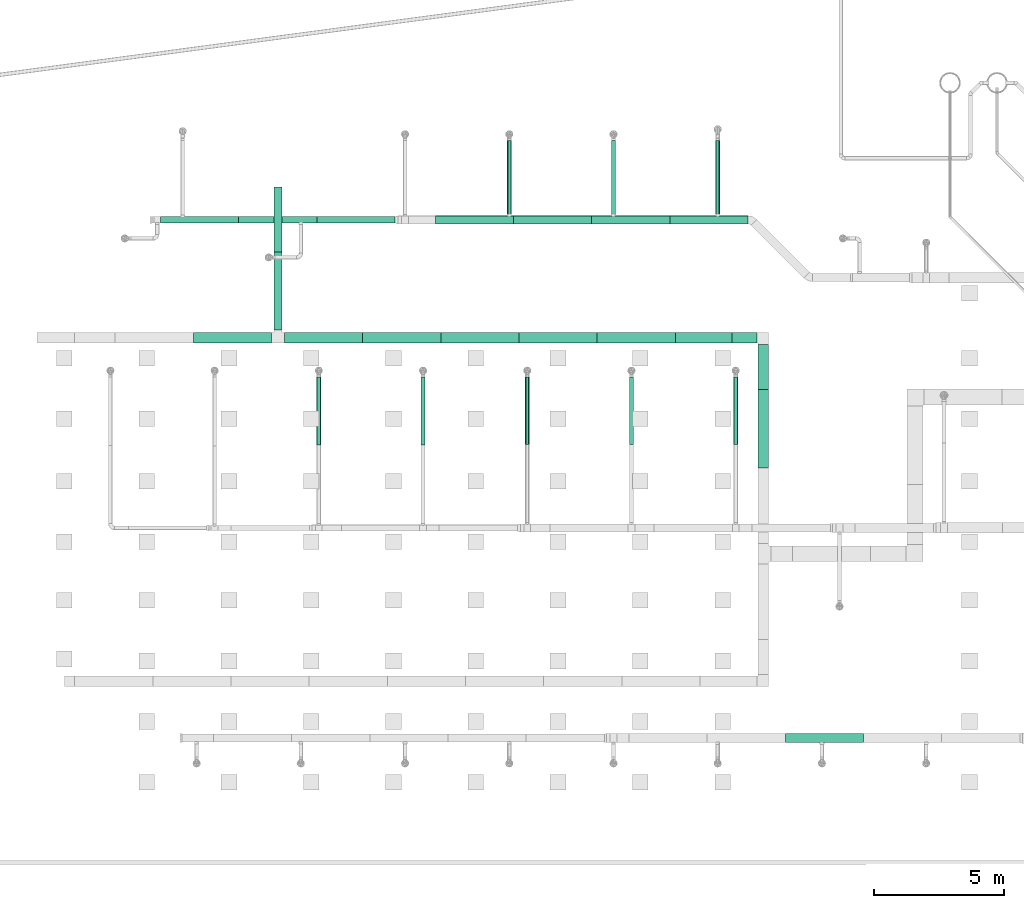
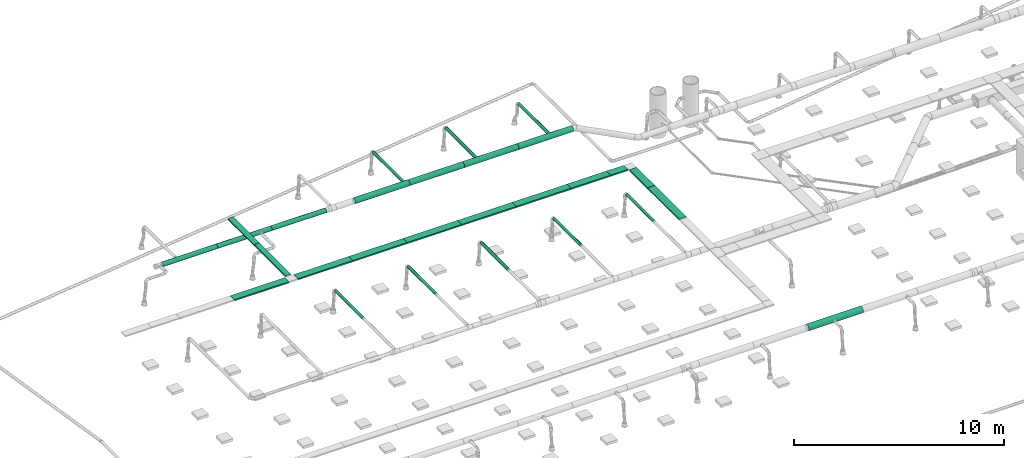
# One storey, part 3 of 374: 16 flow segments, 12 distribution elements.
"""IFC2X3 building model written with IfcOpenShell, lengths in metres."""

from ifc_helpers import new_model, si_unit, direction, frame, frame_2d, origin, place, context, subcontext, project, spatial, rectangle, extrude, open_shell, surface_model, source, transform, mapped, element, save


model = new_model("IFC2X3")

# Units and contexts
model_context = context("Model", 3, precision=1e-05, world=origin(), true_north=direction((-0.4480736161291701, 0.8939966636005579)))
body_context = subcontext(model_context, "Body", "Model", "MODEL_VIEW")
ifc_project = project(units=[si_unit("LENGTHUNIT", "METRE"), si_unit("AREAUNIT", "SQUARE_METRE"), si_unit("VOLUMEUNIT", "CUBIC_METRE"), si_unit("PLANEANGLEUNIT", "RADIAN"), si_unit("THERMODYNAMICTEMPERATUREUNIT", "KELVIN"), si_unit("MASSUNIT", "GRAM", prefix="KILO"), si_unit("TIMEUNIT", "SECOND")], contexts=[model_context])

# Site, building, storey
site_placement = place(None, origin())
site = spatial("IfcSite", under=ifc_project, at=site_placement, Name="Site 1", CompositionType="ELEMENT")
building_placement = place(site_placement, origin())
building = spatial("IfcBuilding", under=site, at=building_placement, Name="Undefined", CompositionType="ELEMENT")
storey_placement = place(building_placement, origin())
storey = spatial("IfcBuildingStorey", under=building, at=storey_placement, Name="Rez de chauss\x8ee", CompositionType="ELEMENT", Elevation=0.0)

# Flow segments
shared_shape_1 = source(origin(), body_context, "Body", "SurfaceModel", [
    surface_model("IfcFaceBasedSurfaceModel", [(0.0, 0.046336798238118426, 0.0), (0.0, 0.0, 0.0), (3.0, 0.0, 0.0), (3.0, 0.046336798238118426, 0.0), (0.0, -0.044757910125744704, -0.0119928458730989), (3.0, -0.044757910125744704, -0.0119928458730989), (0.0, -0.08488675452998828, -0.035161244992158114), (3.0, -0.08488675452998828, -0.035161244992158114), (0.0, -0.11765181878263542, -0.06792630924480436), (3.0, -0.11765181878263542, -0.06792630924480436), (0.0, -0.1408202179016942, -0.10805515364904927), (3.0, -0.1408202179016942, -0.10805515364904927), (0.0, -0.15281306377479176, -0.15281306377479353), (3.0, -0.15281306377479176, -0.15281306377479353), (0.0, -0.1528130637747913, -0.19914986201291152), (3.0, -0.1528130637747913, -0.19914986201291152), (0.0, -0.14082021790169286, -0.24390777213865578), (3.0, -0.14082021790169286, -0.24390777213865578), (0.0, -0.11765181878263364, -0.2840366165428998), (3.0, -0.11765181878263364, -0.2840366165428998), (0.0, -0.0848867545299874, -0.31680168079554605), (3.0, -0.0848867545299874, -0.31680168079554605), (0.0, -0.044757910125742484, -0.3399700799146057), (3.0, -0.044757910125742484, -0.3399700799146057), (0.0, 1.776356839e-15, -0.35196292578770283), (3.0, 1.776356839e-15, -0.35196292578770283), (0.0, 0.0463367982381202, -0.3519629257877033), (3.0, 0.0463367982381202, -0.3519629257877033), (0.0, 0.09109470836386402, -0.3399700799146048), (3.0, 0.09109470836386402, -0.3399700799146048), (0.0, 0.13122355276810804, -0.31680168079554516), (3.0, 0.13122355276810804, -0.31680168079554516), (0.0, 0.16398861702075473, -0.2840366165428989), (3.0, 0.16398861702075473, -0.2840366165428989), (0.0, 0.18715701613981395, -0.243907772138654), (3.0, 0.18715701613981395, -0.243907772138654), (0.0, 0.19914986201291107, -0.19914986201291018), (3.0, 0.19914986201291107, -0.19914986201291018), (0.0, 0.19914986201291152, -0.15281306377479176), (3.0, 0.19914986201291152, -0.15281306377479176), (0.0, 0.18715701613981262, -0.1080551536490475), (3.0, 0.18715701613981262, -0.1080551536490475), (0.0, 0.1639886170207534, -0.06792630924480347), (3.0, 0.1639886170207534, -0.06792630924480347), (0.0, 0.1312235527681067, -0.03516124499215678), (3.0, 0.1312235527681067, -0.03516124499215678), (0.0, 0.09109470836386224, -0.011992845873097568), (3.0, 0.09109470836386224, -0.011992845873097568)], [open_shell([[[0, 1, 2, 3]], [[1, 4, 5, 2]], [[4, 6, 7, 5]], [[6, 8, 9, 7]], [[8, 10, 11, 9]], [[10, 12, 13, 11]], [[12, 14, 15, 13]], [[14, 16, 17, 15]], [[16, 18, 19, 17]], [[18, 20, 21, 19]], [[20, 22, 23, 21]], [[22, 24, 25, 23]], [[24, 26, 27, 25]], [[26, 28, 29, 27]], [[28, 30, 31, 29]], [[30, 32, 33, 31]], [[32, 34, 35, 33]], [[34, 36, 37, 35]], [[36, 38, 39, 37]], [[38, 40, 41, 39]], [[40, 42, 43, 41]], [[42, 44, 45, 43]], [[44, 46, 47, 45]], [[46, 0, 3, 47]]])]),
])
flow_segment_1_placement = place(storey_placement, origin())
element("IfcFlowSegment", 1, at=flow_segment_1_placement, inside=storey, Name="Tube", ObjectType="Tube", context=body_context, shape_type="MappedRepresentation", body=[
    mapped(shared_shape_1, transform((31.88300102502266, 2.897238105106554, 3.9714518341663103), x_axis=(-1.0, 0.0, 0.0), y_axis=(7.266545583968e-12, -0.9914448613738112, 0.13052619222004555), z_axis=(0.0, 0.13052619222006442, 0.9914448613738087))),
])
shared_shape_2 = source(origin(), body_context, "Body", "SurfaceModel", [
    surface_model("IfcFaceBasedSurfaceModel", [(0.0, 0.04111575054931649, 0.0), (0.0, 0.0, 0.0), (3.0, 0.0, 0.0), (3.0, 0.04111575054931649, 0.0), (0.0, -0.03971476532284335, -0.010641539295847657), (3.0, -0.03971476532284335, -0.010641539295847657), (0.0, -0.0753220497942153, -0.0311994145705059), (3.0, -0.0753220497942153, -0.0311994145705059), (0.0, -0.10439527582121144, -0.060272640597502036), (3.0, -0.10439527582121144, -0.060272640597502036), (0.0, -0.12495315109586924, -0.09587992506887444), (3.0, -0.12495315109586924, -0.09587992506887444), (0.0, -0.13559469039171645, -0.13559469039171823), (3.0, -0.13559469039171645, -0.13559469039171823), (0.0, -0.135594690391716, -0.17671044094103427), (3.0, -0.135594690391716, -0.17671044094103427), (0.0, -0.1249531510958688, -0.21642520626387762), (3.0, -0.1249531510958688, -0.21642520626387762), (0.0, -0.10439527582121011, -0.2520324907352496), (3.0, -0.10439527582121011, -0.2520324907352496), (0.0, -0.07532204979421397, -0.2811057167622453), (3.0, -0.07532204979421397, -0.2811057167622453), (0.0, -0.039714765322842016, -0.3016635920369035), (3.0, -0.039714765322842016, -0.3016635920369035), (0.0, 1.776356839e-15, -0.3123051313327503), (3.0, 1.776356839e-15, -0.3123051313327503), (0.0, 0.041115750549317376, -0.31230513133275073), (3.0, 0.041115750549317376, -0.31230513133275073), (0.0, 0.08083051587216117, -0.30166359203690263), (3.0, 0.08083051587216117, -0.30166359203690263), (0.0, 0.11643780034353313, -0.28110571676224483), (3.0, 0.11643780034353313, -0.28110571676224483), (0.0, 0.14551102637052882, -0.25203249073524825), (3.0, 0.14551102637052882, -0.25203249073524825), (0.0, 0.16606890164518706, -0.2164252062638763), (3.0, 0.16606890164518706, -0.2164252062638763), (0.0, 0.17671044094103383, -0.1767104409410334), (3.0, 0.17671044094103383, -0.1767104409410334), (0.0, 0.17671044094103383, -0.1355946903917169), (3.0, 0.17671044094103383, -0.1355946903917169), (0.0, 0.16606890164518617, -0.09587992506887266), (3.0, 0.16606890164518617, -0.09587992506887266), (0.0, 0.14551102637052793, -0.06027264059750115), (3.0, 0.14551102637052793, -0.06027264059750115), (0.0, 0.1164378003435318, -0.031199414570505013), (3.0, 0.1164378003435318, -0.031199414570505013), (0.0, 0.08083051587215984, -0.010641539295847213), (3.0, 0.08083051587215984, -0.010641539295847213)], [open_shell([[[0, 1, 2, 3]], [[1, 4, 5, 2]], [[4, 6, 7, 5]], [[6, 8, 9, 7]], [[8, 10, 11, 9]], [[10, 12, 13, 11]], [[12, 14, 15, 13]], [[14, 16, 17, 15]], [[16, 18, 19, 17]], [[18, 20, 21, 19]], [[20, 22, 23, 21]], [[22, 24, 25, 23]], [[24, 26, 27, 25]], [[26, 28, 29, 27]], [[28, 30, 31, 29]], [[30, 32, 33, 31]], [[32, 34, 35, 33]], [[34, 36, 37, 35]], [[36, 38, 39, 37]], [[38, 40, 41, 39]], [[40, 42, 43, 41]], [[42, 44, 45, 43]], [[44, 46, 47, 45]], [[46, 0, 3, 47]]])]),
])
flow_segment_2_placement = place(storey_placement, origin())
element("IfcFlowSegment", 2, at=flow_segment_2_placement, inside=storey, Name="Tube", ObjectType="Tube", context=body_context, shape_type="MappedRepresentation", body=[
    mapped(shared_shape_2, transform((27.453143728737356, 22.785693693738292, 3.952133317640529), x_axis=(-1.0, 0.0, 0.0), y_axis=(7.266545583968e-12, -0.9914448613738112, 0.13052619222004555), z_axis=(0.0, 0.13052619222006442, 0.9914448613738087))),
])
flow_segment_3_placement = place(storey_placement, origin())
element("IfcFlowSegment", 3, at=flow_segment_3_placement, inside=storey, Name="Tube", ObjectType="Tube", context=body_context, shape_type="MappedRepresentation", body=[
    mapped(shared_shape_2, transform((24.453143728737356, 22.785693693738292, 3.952133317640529), x_axis=(-1.0, 0.0, 0.0), y_axis=(7.266545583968e-12, -0.9914448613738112, 0.13052619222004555), z_axis=(0.0, 0.13052619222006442, 0.9914448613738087))),
])
flow_segment_4_placement = place(storey_placement, origin())
element("IfcFlowSegment", 4, at=flow_segment_4_placement, inside=storey, Name="Tube", ObjectType="Tube", context=body_context, shape_type="MappedRepresentation", body=[
    mapped(shared_shape_2, transform((21.453143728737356, 22.785693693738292, 3.952133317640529), x_axis=(-1.0, 0.0, 0.0), y_axis=(7.266545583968e-12, -0.9914448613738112, 0.13052619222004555), z_axis=(0.0, 0.13052619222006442, 0.9914448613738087))),
])
flow_segment_5_placement = place(storey_placement, origin())
element("IfcFlowSegment", 5, at=flow_segment_5_placement, inside=storey, Name="Tube", ObjectType="Tube", context=body_context, shape_type="MappedRepresentation", body=[
    mapped(shared_shape_2, transform((18.453143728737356, 22.785693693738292, 3.952133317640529), x_axis=(-1.0, 0.0, 0.0), y_axis=(7.266545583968e-12, -0.9914448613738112, 0.13052619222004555), z_axis=(0.0, 0.13052619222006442, 0.9914448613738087))),
])
shared_shape_3 = source(origin(), body_context, "Body", "SurfaceModel", [
    surface_model("IfcFaceBasedSurfaceModel", [(0.0, 0.03263154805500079, 0.0), (0.0, 0.0, 0.0), (3.0, 0.0, 0.0), (3.0, 0.03263154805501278, -4.4408921e-16), (0.0, -0.031519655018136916, -0.008445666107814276), (3.0, -0.03151965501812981, -0.008445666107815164), (0.0, -0.05977940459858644, -0.024761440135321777), (3.0, -0.05977940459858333, -0.02476144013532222), (0.0, -0.08285339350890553, -0.047835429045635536), (3.0, -0.08285339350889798, -0.04783542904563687), (0.0, -0.09916916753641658, -0.07609517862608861), (3.0, -0.09916916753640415, -0.07609517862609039), (0.0, -0.1076148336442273, -0.10761483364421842), (3.0, -0.10761483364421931, -0.10761483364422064), (0.0, -0.1076148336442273, -0.14024638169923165), (3.0, -0.10761483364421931, -0.14024638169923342), (0.0, -0.09916916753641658, -0.17176603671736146), (3.0, -0.09916916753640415, -0.17176603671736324), (0.0, -0.08285339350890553, -0.2000257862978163), (3.0, -0.08285339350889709, -0.20002578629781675), (0.0, -0.059779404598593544, -0.22309977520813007), (3.0, -0.059779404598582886, -0.22309977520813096), (0.0, -0.03151965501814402, -0.23941554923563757), (3.0, -0.03151965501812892, -0.23941554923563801), (0.0, -1.4210854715e-14, -0.24786121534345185), (3.0, 8.8817842e-16, -0.24786121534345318), (0.0, 0.03263154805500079, -0.24786121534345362), (3.0, 0.032631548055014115, -0.24786121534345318), (0.0, 0.0641512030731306, -0.23941554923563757), (3.0, 0.06415120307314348, -0.23941554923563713), (0.0, 0.09241095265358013, -0.22309977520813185), (3.0, 0.092410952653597, -0.22309977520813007), (0.0, 0.11548494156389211, -0.2000257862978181), (3.0, 0.11548494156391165, -0.20002578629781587), (0.0, 0.13180071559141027, -0.171766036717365), (3.0, 0.13180071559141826, -0.1717660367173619), (0.0, 0.140246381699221, -0.1402463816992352), (3.0, 0.14024638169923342, -0.14024638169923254), (0.0, 0.140246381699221, -0.10761483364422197), (3.0, 0.14024638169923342, -0.10761483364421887), (0.0, 0.13180071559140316, -0.07609517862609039), (3.0, 0.13180071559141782, -0.07609517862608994), (0.0, 0.11548494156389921, -0.04783542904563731), (3.0, 0.11548494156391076, -0.047835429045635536), (0.0, 0.09241095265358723, -0.024761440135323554), (3.0, 0.09241095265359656, -0.024761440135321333), (0.0, 0.06415120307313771, -0.008445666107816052), (3.0, 0.06415120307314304, -0.008445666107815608)], [open_shell([[[0, 1, 2, 3]], [[1, 4, 5, 2]], [[4, 6, 7, 5]], [[6, 8, 9, 7]], [[8, 10, 11, 9]], [[10, 12, 13, 11]], [[12, 14, 15, 13]], [[14, 16, 17, 15]], [[16, 18, 19, 17]], [[18, 20, 21, 19]], [[20, 22, 23, 21]], [[22, 24, 25, 23]], [[24, 26, 27, 25]], [[26, 28, 29, 27]], [[28, 30, 31, 29]], [[30, 32, 33, 31]], [[32, 34, 35, 33]], [[34, 36, 37, 35]], [[36, 38, 39, 37]], [[38, 40, 41, 39]], [[40, 42, 43, 41]], [[42, 44, 45, 43]], [[44, 46, 47, 45]], [[46, 0, 3, 47]]])]),
])
flow_segment_6_placement = place(storey_placement, origin())
element("IfcFlowSegment", 6, at=flow_segment_6_placement, inside=storey, Name="Tube", ObjectType="Tube", context=body_context, shape_type="MappedRepresentation", body=[
    mapped(shared_shape_3, transform((13.906000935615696, 22.777282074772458, 3.920740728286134), x_axis=(-1.0, 0.0, 0.0), y_axis=(7.266545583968e-12, -0.9914448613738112, 0.13052619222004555), z_axis=(0.0, 0.13052619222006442, 0.9914448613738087))),
])
flow_segment_7_placement = place(storey_placement, origin())
element("IfcFlowSegment", 7, at=flow_segment_7_placement, inside=storey, Name="Tube", ObjectType="Tube", context=body_context, shape_type="MappedRepresentation", body=[
    mapped(shared_shape_3, transform((10.906000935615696, 22.777282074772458, 3.920740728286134), x_axis=(-1.0, 0.0, 0.0), y_axis=(7.266545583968e-12, -0.9914448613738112, 0.13052619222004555), z_axis=(0.0, 0.13052619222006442, 0.9914448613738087))),
])
flow_segment_8_placement = place(storey_placement, origin())
element("IfcFlowSegment", 8, at=flow_segment_8_placement, inside=storey, Name="Tube", ObjectType="Tube", context=body_context, shape_type="MappedRepresentation", body=[
    mapped(shared_shape_3, transform((7.906000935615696, 22.777282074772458, 3.920740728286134), x_axis=(-1.0, 0.0, 0.0), y_axis=(7.266545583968e-12, -0.9914448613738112, 0.13052619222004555), z_axis=(0.0, 0.13052619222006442, 0.9914448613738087))),
])
shared_shape_4 = source(origin(), body_context, "Body", "SurfaceModel", [
    surface_model("IfcFaceBasedSurfaceModel", [(0.0, 0.020884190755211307, 0.0), (0.0, 0.0, 0.0), (2.586103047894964, 0.0, 0.0), (2.586103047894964, 0.020884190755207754, 0.0), (0.0, -0.020172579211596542, -0.005405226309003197), (2.586103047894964, -0.0201725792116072, -0.005405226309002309), (0.0, -0.03825881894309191, -0.015847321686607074), (2.586103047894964, -0.03825881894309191, -0.015847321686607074), (0.0, -0.05302617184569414, -0.0306146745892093), (2.586103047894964, -0.05302617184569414, -0.030614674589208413), (0.0, -0.06346826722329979, -0.04870091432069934), (2.586103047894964, -0.06346826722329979, -0.04870091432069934), (0.0, -0.06887349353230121, -0.06887349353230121), (2.586103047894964, -0.06887349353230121, -0.0688734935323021), (0.0, -0.06887349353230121, -0.08975768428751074), (2.586103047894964, -0.06887349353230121, -0.08975768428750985), (0.0, -0.06346826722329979, -0.10993026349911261), (2.586103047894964, -0.06346826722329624, -0.1099302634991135), (0.0, -0.05302617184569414, -0.12801650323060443), (2.586103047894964, -0.053026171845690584, -0.12801650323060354), (0.0, -0.038258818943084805, -0.14278385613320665), (2.586103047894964, -0.03825881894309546, -0.142783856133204), (0.0, -0.020172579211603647, -0.15322595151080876), (2.586103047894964, -0.020172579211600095, -0.15322595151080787), (0.0, 7.105427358e-15, -0.15863117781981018), (2.586103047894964, 3.552713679e-15, -0.1586311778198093), (0.0, 0.020884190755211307, -0.15863117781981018), (2.586103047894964, 0.020884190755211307, -0.1586311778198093), (0.0, 0.04105676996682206, -0.15322595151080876), (2.586103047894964, 0.0410567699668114, -0.1532259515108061), (0.0, 0.05914300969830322, -0.1427838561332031), (2.586103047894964, 0.05914300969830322, -0.1427838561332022), (0.0, 0.07391036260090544, -0.12801650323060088), (2.586103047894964, 0.073910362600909, -0.12801650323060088), (0.0, 0.0843524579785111, -0.10993026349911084), (2.586103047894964, 0.08435245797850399, -0.10993026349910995), (0.0, 0.08975768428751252, -0.08975768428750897), (2.586103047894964, 0.08975768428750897, -0.08975768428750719), (0.0, 0.08975768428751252, -0.06887349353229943), (2.586103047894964, 0.08975768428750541, -0.06887349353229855), (0.0, 0.0843524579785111, -0.048700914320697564), (2.586103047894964, 0.0843524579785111, -0.04870091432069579), (0.0, 0.07391036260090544, -0.030614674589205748), (2.586103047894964, 0.07391036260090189, -0.030614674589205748), (0.0, 0.05914300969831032, -0.015847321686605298), (2.586103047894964, 0.059143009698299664, -0.01584732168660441), (0.0, 0.04105676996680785, -0.005405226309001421), (2.586103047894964, 0.0410567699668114, -0.005405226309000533)], [open_shell([[[0, 1, 2, 3]], [[1, 4, 5, 2]], [[4, 6, 7, 5]], [[6, 8, 9, 7]], [[8, 10, 11, 9]], [[10, 12, 13, 11]], [[12, 14, 15, 13]], [[14, 16, 17, 15]], [[16, 18, 19, 17]], [[18, 20, 21, 19]], [[20, 22, 23, 21]], [[22, 24, 25, 23]], [[24, 26, 27, 25]], [[26, 28, 29, 27]], [[28, 30, 31, 29]], [[30, 32, 33, 31]], [[32, 34, 35, 33]], [[34, 36, 37, 35]], [[36, 38, 39, 37]], [[38, 40, 41, 39]], [[40, 42, 43, 41]], [[42, 44, 45, 43]], [[44, 46, 47, 45]], [[46, 0, 3, 47]]])]),
])
flow_segment_9_placement = place(storey_placement, origin())
element("IfcFlowSegment", 9, at=flow_segment_9_placement, inside=storey, Name="Tube", ObjectType="Tube", context=body_context, shape_type="MappedRepresentation", body=[
    mapped(shared_shape_4, transform((27.000759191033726, 14.129193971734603, 3.877274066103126), x_axis=(0.0, 1.0, 0.0), y_axis=(-0.9914448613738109, 0.0, 0.1305261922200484), z_axis=(0.1305261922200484, 0.0, 0.9914448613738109))),
])
flow_segment_10_placement = place(storey_placement, origin())
element("IfcFlowSegment", 10, at=flow_segment_10_placement, inside=storey, Name="Tube", ObjectType="Tube", context=body_context, shape_type="MappedRepresentation", body=[
    mapped(shared_shape_4, transform((23.000759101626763, 14.129193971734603, 3.877274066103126), x_axis=(0.0, 1.0, 0.0), y_axis=(-0.9914448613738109, 0.0, 0.1305261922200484), z_axis=(0.1305261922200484, 0.0, 0.9914448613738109))),
])
flow_segment_11_placement = place(storey_placement, origin())
element("IfcFlowSegment", 11, at=flow_segment_11_placement, inside=storey, Name="Tube", ObjectType="Tube", context=body_context, shape_type="MappedRepresentation", body=[
    mapped(shared_shape_4, transform((19.000759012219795, 14.129193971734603, 3.877274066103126), x_axis=(0.0, 1.0, 0.0), y_axis=(-0.9914448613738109, 0.0, 0.1305261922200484), z_axis=(0.1305261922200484, 0.0, 0.9914448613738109))),
])
shared_shape_5 = source(origin(), body_context, "Body", "SurfaceModel", [
    surface_model("IfcFaceBasedSurfaceModel", [(0.0, 0.020884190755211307, 0.0), (0.0, 0.0, 0.0), (2.621103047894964, 0.0, 0.0), (2.621103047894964, 0.020884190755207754, 0.0), (0.0, -0.020172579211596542, -0.005405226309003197), (2.621103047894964, -0.020172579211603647, -0.005405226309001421), (0.0, -0.03825881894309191, -0.015847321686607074), (2.621103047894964, -0.038258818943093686, -0.015847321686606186), (0.0, -0.05302617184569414, -0.0306146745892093), (2.621103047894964, -0.05302617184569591, -0.030614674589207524), (0.0, -0.06346826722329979, -0.04870091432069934), (2.621103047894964, -0.06346826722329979, -0.048700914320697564), (0.0, -0.06887349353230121, -0.06887349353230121), (2.621103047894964, -0.06887349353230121, -0.06887349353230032), (0.0, -0.06887349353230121, -0.08975768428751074), (2.621103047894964, -0.06887349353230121, -0.08975768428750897), (0.0, -0.06346826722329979, -0.10993026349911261), (2.621103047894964, -0.06346826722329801, -0.10993026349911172), (0.0, -0.05302617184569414, -0.12801650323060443), (2.621103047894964, -0.05302617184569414, -0.12801650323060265), (0.0, -0.038258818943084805, -0.14278385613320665), (2.621103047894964, -0.03825881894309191, -0.1427838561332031), (0.0, -0.020172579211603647, -0.15322595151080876), (2.621103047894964, -0.02017257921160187, -0.15322595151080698), (0.0, 7.105427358e-15, -0.15863117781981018), (2.621103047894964, 0.0, -0.1586311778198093), (0.0, 0.020884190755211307, -0.15863117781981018), (2.621103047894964, 0.02088419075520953, -0.1586311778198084), (0.0, 0.04105676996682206, -0.15322595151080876), (2.621103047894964, 0.04105676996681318, -0.15322595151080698), (0.0, 0.05914300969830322, -0.1427838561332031), (2.621103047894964, 0.05914300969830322, -0.1427838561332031), (0.0, 0.07391036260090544, -0.12801650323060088), (2.621103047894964, 0.07391036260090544, -0.12801650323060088), (0.0, 0.0843524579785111, -0.10993026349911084), (2.621103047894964, 0.08435245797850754, -0.10993026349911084), (0.0, 0.08975768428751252, -0.08975768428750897), (2.621103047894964, 0.08975768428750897, -0.08975768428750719), (0.0, 0.08975768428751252, -0.06887349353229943), (2.621103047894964, 0.08975768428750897, -0.06887349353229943), (0.0, 0.0843524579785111, -0.048700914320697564), (2.621103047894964, 0.08435245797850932, -0.048700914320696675), (0.0, 0.07391036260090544, -0.030614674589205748), (2.621103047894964, 0.07391036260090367, -0.030614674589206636), (0.0, 0.05914300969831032, -0.015847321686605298), (2.621103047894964, 0.05914300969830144, -0.015847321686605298), (0.0, 0.04105676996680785, -0.005405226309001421), (2.621103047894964, 0.0410567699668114, -0.005405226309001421)], [open_shell([[[0, 1, 2, 3]], [[1, 4, 5, 2]], [[4, 6, 7, 5]], [[6, 8, 9, 7]], [[8, 10, 11, 9]], [[10, 12, 13, 11]], [[12, 14, 15, 13]], [[14, 16, 17, 15]], [[16, 18, 19, 17]], [[18, 20, 21, 19]], [[20, 22, 23, 21]], [[22, 24, 25, 23]], [[24, 26, 27, 25]], [[26, 28, 29, 27]], [[28, 30, 31, 29]], [[30, 32, 33, 31]], [[32, 34, 35, 33]], [[34, 36, 37, 35]], [[36, 38, 39, 37]], [[38, 40, 41, 39]], [[40, 42, 43, 41]], [[42, 44, 45, 43]], [[44, 46, 47, 45]], [[46, 0, 3, 47]]])]),
])
flow_segment_12_placement = place(storey_placement, origin())
element("IfcFlowSegment", 12, at=flow_segment_12_placement, inside=storey, Name="Tube", ObjectType="Tube", context=body_context, shape_type="MappedRepresentation", body=[
    mapped(shared_shape_5, transform((15.000758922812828, 14.094193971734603, 3.877274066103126), x_axis=(0.0, 1.0, 0.0), y_axis=(-0.9914448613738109, 0.0, 0.1305261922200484), z_axis=(0.1305261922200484, 0.0, 0.9914448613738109))),
])
flow_segment_13_placement = place(storey_placement, origin())
element("IfcFlowSegment", 13, at=flow_segment_13_placement, inside=storey, Name="Tube", ObjectType="Tube", context=body_context, shape_type="MappedRepresentation", body=[
    mapped(shared_shape_5, transform((11.000758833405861, 14.094193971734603, 3.877274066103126), x_axis=(0.0, 1.0, 0.0), y_axis=(-0.9914448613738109, 0.0, 0.1305261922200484), z_axis=(0.1305261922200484, 0.0, 0.9914448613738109))),
])
shared_shape_6 = source(origin(), body_context, "Body", "SurfaceModel", [
    surface_model("IfcFaceBasedSurfaceModel", [(0.0, 0.020884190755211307, 0.0), (0.0, 0.0, 0.0), (2.837569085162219, 0.0, 0.0), (2.837569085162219, 0.020884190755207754, -8.8817842e-16), (0.0, -0.020172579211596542, -0.005405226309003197), (2.837569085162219, -0.020172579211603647, -0.005405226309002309), (0.0, -0.03825881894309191, -0.015847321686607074), (2.837569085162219, -0.03825881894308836, -0.015847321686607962), (0.0, -0.05302617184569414, -0.0306146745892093), (2.837569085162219, -0.053026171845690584, -0.030614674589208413), (0.0, -0.06346826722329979, -0.04870091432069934), (2.837569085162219, -0.06346826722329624, -0.04870091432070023), (0.0, -0.06887349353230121, -0.06887349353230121), (2.837569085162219, -0.06887349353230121, -0.0688734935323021), (0.0, -0.06887349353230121, -0.08975768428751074), (2.837569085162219, -0.06887349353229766, -0.08975768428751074), (0.0, -0.06346826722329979, -0.10993026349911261), (2.837569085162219, -0.06346826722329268, -0.1099302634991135), (0.0, -0.05302617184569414, -0.12801650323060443), (2.837569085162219, -0.05302617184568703, -0.12801650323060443), (0.0, -0.038258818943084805, -0.14278385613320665), (2.837569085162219, -0.03825881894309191, -0.142783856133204), (0.0, -0.020172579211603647, -0.15322595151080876), (2.837569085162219, -0.020172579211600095, -0.15322595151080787), (0.0, 7.105427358e-15, -0.15863117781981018), (2.837569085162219, 3.552713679e-15, -0.15863117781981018), (0.0, 0.020884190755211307, -0.15863117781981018), (2.837569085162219, 0.020884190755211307, -0.1586311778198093), (0.0, 0.04105676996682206, -0.15322595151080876), (2.837569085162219, 0.041056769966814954, -0.15322595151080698), (0.0, 0.05914300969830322, -0.1427838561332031), (2.837569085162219, 0.05914300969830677, -0.1427838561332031), (0.0, 0.07391036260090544, -0.12801650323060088), (2.837569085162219, 0.073910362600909, -0.12801650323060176), (0.0, 0.0843524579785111, -0.10993026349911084), (2.837569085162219, 0.08435245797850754, -0.10993026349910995), (0.0, 0.08975768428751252, -0.08975768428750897), (2.837569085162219, 0.08975768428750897, -0.08975768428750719), (0.0, 0.08975768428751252, -0.06887349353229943), (2.837569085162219, 0.08975768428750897, -0.06887349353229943), (0.0, 0.0843524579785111, -0.048700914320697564), (2.837569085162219, 0.0843524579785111, -0.048700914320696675), (0.0, 0.07391036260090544, -0.030614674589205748), (2.837569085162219, 0.07391036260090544, -0.030614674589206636), (0.0, 0.05914300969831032, -0.015847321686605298), (2.837569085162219, 0.05914300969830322, -0.015847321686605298), (0.0, 0.04105676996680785, -0.005405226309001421), (2.837569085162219, 0.0410567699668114, -0.005405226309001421)], [open_shell([[[0, 1, 2, 3]], [[1, 4, 5, 2]], [[4, 6, 7, 5]], [[6, 8, 9, 7]], [[8, 10, 11, 9]], [[10, 12, 13, 11]], [[12, 14, 15, 13]], [[14, 16, 17, 15]], [[16, 18, 19, 17]], [[18, 20, 21, 19]], [[20, 22, 23, 21]], [[22, 24, 25, 23]], [[24, 26, 27, 25]], [[26, 28, 29, 27]], [[28, 30, 31, 29]], [[30, 32, 33, 31]], [[32, 34, 35, 33]], [[34, 36, 37, 35]], [[36, 38, 39, 37]], [[38, 40, 41, 39]], [[40, 42, 43, 41]], [[42, 44, 45, 43]], [[44, 46, 47, 45]], [[46, 0, 3, 47]]])]),
])
flow_segment_14_placement = place(storey_placement, origin())
element("IfcFlowSegment", 14, at=flow_segment_14_placement, inside=storey, Name="Tube", ObjectType="Tube", context=body_context, shape_type="MappedRepresentation", body=[
    mapped(shared_shape_6, transform((22.310706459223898, 22.952429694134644, 3.877274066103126), x_axis=(0.0, 1.0, 0.0), y_axis=(-0.9914448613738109, 0.0, 0.1305261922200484), z_axis=(0.1305261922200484, 0.0, 0.9914448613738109))),
])
flow_segment_15_placement = place(storey_placement, origin())
element("IfcFlowSegment", 15, at=flow_segment_15_placement, inside=storey, Name="Tube", ObjectType="Tube", context=body_context, shape_type="MappedRepresentation", body=[
    mapped(shared_shape_6, transform((18.310706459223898, 22.952429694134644, 3.877274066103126), x_axis=(0.0, 1.0, 0.0), y_axis=(-0.9914448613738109, 0.0, 0.1305261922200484), z_axis=(0.1305261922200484, 0.0, 0.9914448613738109))),
])
flow_segment_16_placement = place(storey_placement, origin())
element("IfcFlowSegment", 16, at=flow_segment_16_placement, inside=storey, Name="Tube", ObjectType="Tube", context=body_context, shape_type="MappedRepresentation", body=[
    mapped(shared_shape_6, transform((26.310706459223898, 22.952429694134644, 3.877274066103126), x_axis=(0.0, 1.0, 0.0), y_axis=(-0.9914448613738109, 0.0, 0.1305261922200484), z_axis=(0.1305261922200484, 0.0, 0.9914448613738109))),
])

# Distribution elements
shared_shape_7 = source(origin(), body_context, "Body", "SurfaceModel", [
    surface_model("IfcFaceBasedSurfaceModel", [(0.0, 0.0, 0.0), (2.1830278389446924, 0.0, 0.0), (2.1830278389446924, 0.08000000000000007, 0.0), (0.0, 0.08000000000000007, 0.0), (2.1830278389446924, 0.0, -0.40000000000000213), (0.0, 0.0, -0.3999999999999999), (0.0, 0.08000000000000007, -0.3999999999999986), (2.1830278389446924, 0.08000000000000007, -0.40000000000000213)], [open_shell([[[0, 1, 2, 3]], [[4, 5, 6, 7]], [[6, 3, 2]], [[6, 2, 7]], [[1, 0, 5]], [[4, 1, 5]]])]),
])
distribution_element_1_placement = place(storey_placement, origin())
element("IfcDistributionElement", 17, at=distribution_element_1_placement, inside=storey, Name="Chemin(s) de câbles", ObjectType="Chemin(s) de câbles", context=body_context, shape_type="MappedRepresentation", body=[
    mapped(shared_shape_7, transform((26.84402783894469, 18.011, 4.18), x_axis=(-1.0, 0.0, 0.0), y_axis=(0.0, 0.0, -1.0), z_axis=(0.0, -1.0, 0.0))),
])
distribution_element_2_placement = place(storey_placement, origin())
element("IfcDistributionElement", 18, at=distribution_element_2_placement, inside=storey, Name="Chemin(s) de câbles", ObjectType="Chemin(s) de câbles", context=body_context, shape_type="SweptSolid", body=[
    extrude(rectangle(XDim=0.4, YDim=0.08, at=frame_2d((3.552713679e-15, 0.0), x_axis=(-1.0, 0.0))), frame((9.660999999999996, 18.211000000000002, 4.14), z_axis=(1.0, 0.0, 0.0), x_axis=(0.0, 1.0, 0.0)), (0.0, 0.0, 1.0), 3.0),
])
distribution_element_3_placement = place(storey_placement, origin())
element("IfcDistributionElement", 19, at=distribution_element_3_placement, inside=storey, Name="Chemin(s) de câbles", ObjectType="Chemin(s) de câbles", context=body_context, shape_type="SweptSolid", body=[
    extrude(rectangle(XDim=0.4, YDim=0.08, at=frame_2d((3.552713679e-15, 0.0), x_axis=(-1.0, 0.0))), frame((12.660999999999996, 18.211000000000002, 4.14), z_axis=(1.0, 0.0, 0.0), x_axis=(0.0, 1.0, 0.0)), (0.0, 0.0, 1.0), 3.0),
])
distribution_element_4_placement = place(storey_placement, origin())
element("IfcDistributionElement", 20, at=distribution_element_4_placement, inside=storey, Name="Chemin(s) de câbles", ObjectType="Chemin(s) de câbles", context=body_context, shape_type="SweptSolid", body=[
    extrude(rectangle(XDim=0.4, YDim=0.08, at=frame_2d((3.552713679e-15, 0.0), x_axis=(-1.0, 0.0))), frame((15.660999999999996, 18.211000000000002, 4.14), z_axis=(1.0, 0.0, 0.0), x_axis=(0.0, 1.0, 0.0)), (0.0, 0.0, 1.0), 3.0),
])
distribution_element_5_placement = place(storey_placement, origin())
element("IfcDistributionElement", 21, at=distribution_element_5_placement, inside=storey, Name="Chemin(s) de câbles", ObjectType="Chemin(s) de câbles", context=body_context, shape_type="SweptSolid", body=[
    extrude(rectangle(XDim=0.4, YDim=0.08, at=frame_2d((3.552713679e-15, 0.0), x_axis=(-1.0, 0.0))), frame((18.660999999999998, 18.211000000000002, 4.14), z_axis=(1.0, 0.0, 0.0), x_axis=(0.0, 1.0, 0.0)), (0.0, 0.0, 1.0), 3.0),
])
distribution_element_6_placement = place(storey_placement, origin())
element("IfcDistributionElement", 22, at=distribution_element_6_placement, inside=storey, Name="Chemin(s) de câbles", ObjectType="Chemin(s) de câbles", context=body_context, shape_type="SweptSolid", body=[
    extrude(rectangle(XDim=0.4, YDim=0.08, at=frame_2d((3.552713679e-15, 0.0), x_axis=(-1.0, 0.0))), frame((21.660999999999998, 18.211000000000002, 4.14), z_axis=(1.0, 0.0, 0.0), x_axis=(0.0, 1.0, 0.0)), (0.0, 0.0, 1.0), 3.0),
])
distribution_element_7_placement = place(storey_placement, origin())
element("IfcDistributionElement", 23, at=distribution_element_7_placement, inside=storey, Name="Chemin(s) de câbles", ObjectType="Chemin(s) de câbles", context=body_context, shape_type="SweptSolid", body=[
    extrude(rectangle(XDim=0.4, YDim=0.08, at=frame_2d((3.552713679e-15, 0.0), x_axis=(-1.0, 0.0))), frame((26.84402783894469, 18.211000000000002, 4.14), z_axis=(1.0, 0.0, 0.0), x_axis=(0.0, 1.0, 0.0)), (0.0, 0.0, 1.0), 0.9500000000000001),
])
distribution_element_8_placement = place(storey_placement, origin())
element("IfcDistributionElement", 24, at=distribution_element_8_placement, inside=storey, Name="Chemin(s) de câbles", ObjectType="Chemin(s) de câbles", context=body_context, shape_type="SweptSolid", body=[
    extrude(rectangle(XDim=0.4, YDim=0.08, at=frame_2d((3.552713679e-15, 0.0), x_axis=(-1.0, 0.0))), frame((9.160999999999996, 18.211000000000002, 4.14), z_axis=(-1.0, 0.0, 0.0), x_axis=(0.0, -1.0, 0.0)), (0.0, 0.0, 1.0), 3.0),
])
distribution_element_9_placement = place(storey_placement, origin())
element("IfcDistributionElement", 25, at=distribution_element_9_placement, inside=storey, Name="Chemin(s) de câbles", ObjectType="Chemin(s) de câbles", context=body_context, shape_type="SweptSolid", body=[
    extrude(rectangle(XDim=0.3, YDim=0.08, at=frame_2d((3.552713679e-15, 0.0), x_axis=(-1.0, 0.0))), frame((9.410999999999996, 18.511, 4.14), z_axis=(0.0, 1.0, 0.0), x_axis=(-1.0, 0.0, 0.0)), (0.0, 0.0, 1.0), 3.0),
])
distribution_element_10_placement = place(storey_placement, origin())
element("IfcDistributionElement", 26, at=distribution_element_10_placement, inside=storey, Name="Chemin(s) de câbles", ObjectType="Chemin(s) de câbles", context=body_context, shape_type="SweptSolid", body=[
    extrude(rectangle(XDim=0.3, YDim=0.08, at=frame_2d((3.552713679e-15, 0.0), x_axis=(-1.0, 0.0))), frame((9.410999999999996, 21.511, 4.14), z_axis=(0.0, 1.0, 0.0), x_axis=(-1.0, 0.0, 0.0)), (0.0, 0.0, 1.0), 2.5),
])
distribution_element_11_placement = place(storey_placement, origin())
element("IfcDistributionElement", 27, at=distribution_element_11_placement, inside=storey, Name="Chemin(s) de câbles", ObjectType="Chemin(s) de câbles", context=body_context, shape_type="SweptSolid", body=[
    extrude(rectangle(XDim=0.4, YDim=0.08, at=frame_2d((3.552713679e-15, 0.0), x_axis=(-1.0, 0.0))), frame((28.04402783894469, 13.226369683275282, 4.14), z_axis=(0.0, 1.0, 0.0), x_axis=(-1.0, 0.0, 0.0)), (0.0, 0.0, 1.0), 3.0),
])
distribution_element_12_placement = place(storey_placement, origin())
element("IfcDistributionElement", 28, at=distribution_element_12_placement, inside=storey, Name="Chemin(s) de câbles", ObjectType="Chemin(s) de câbles", context=body_context, shape_type="SweptSolid", body=[
    extrude(rectangle(XDim=0.4, YDim=0.08, at=frame_2d((3.552713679e-15, 0.0), x_axis=(-1.0, 0.0))), frame((28.04402783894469, 16.22636968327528, 4.14), z_axis=(0.0, 1.0, 0.0), x_axis=(-1.0, 0.0, 0.0)), (0.0, 0.0, 1.0), 1.7346303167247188),
])

save(model, "model.ifc")
